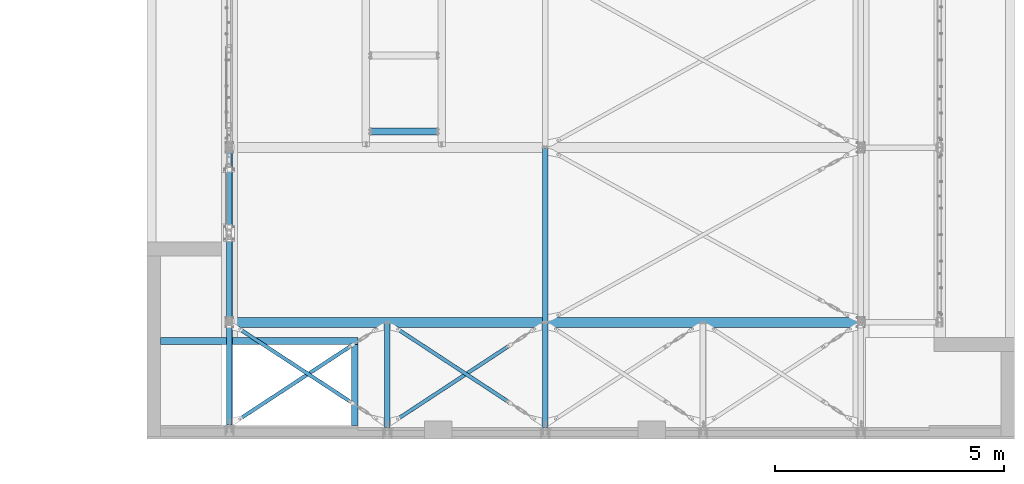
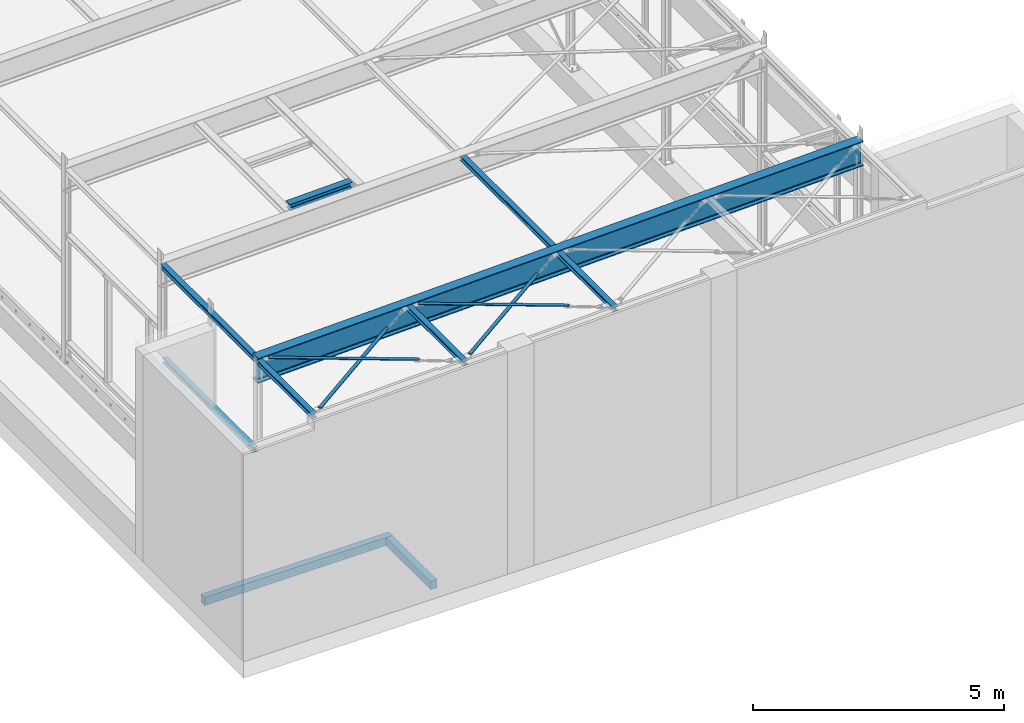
# One storey, part 12 of 476: 8 beams, 6 members, 50 openings.
"""IFC2X3 building model written with IfcOpenShell, lengths in millimetres."""

from ifc_helpers import new_model, entity, si_unit, converted_unit, frame, frame_2d, origin, origin_with_axes, origin_2d, origin_2d_with_axis, place, context, project, spatial, polyline, rectangle, circle, i_section, outline, extrude, clip, halfspace, material, element, save


model = new_model("IFC2X3")

# Units and contexts
model_context = context("Model", 3, precision=1e-09, world=origin_with_axes())
ifc_project = project(units=[si_unit("LENGTHUNIT", "METRE", prefix="MILLI"), si_unit("AREAUNIT", "SQUARE_METRE"), si_unit("VOLUMEUNIT", "CUBIC_METRE"), converted_unit("PLANEANGLEUNIT", "DEGREE", entity("IfcPlaneAngleMeasure", 0.01745329), si_unit("PLANEANGLEUNIT", "RADIAN"), dimensions=[0, 0, 0, 0, 0, 0, 0])], contexts=[model_context])

# Site, building, storey
site_placement = place(None, origin_with_axes())
site = spatial("IfcSite", under=ifc_project, at=site_placement, Name="mKR Teilneubau & Sanierung BA1 - Ostfildern", CompositionType="ELEMENT")
building_placement = place(site_placement, origin_with_axes())
building = spatial("IfcBuilding", under=site, at=building_placement, Name="Struktur 1", CompositionType="ELEMENT")
storey_placement = place(building_placement, origin_with_axes())
storey = spatial("IfcBuildingStorey", under=building, at=storey_placement, Name="Default Storey", CompositionType="ELEMENT", Elevation=0.0)

# Member, openings
ifc_material_1 = material(Name="S235JR")
member_1_placement = place(None, frame((11790.469902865, -21341.696980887, 5330.766490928), z_axis=(-0.835791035, 0.548472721, -0.025120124), x_axis=(0.030041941, 0.0, -0.999548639)))
member_1 = element("IfcMember", 1, at=member_1_placement, inside=storey, material=ifc_material_1, Name="-", ObjectType="-", context=model_context, shape_type="SweptSolid", body=[
    extrude(rectangle(XDim=15.0, YDim=80.0, at=origin_2d()), origin(), (0.0, 0.0, -1.0), 3007.407259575),
])
opening_1_placement = place(member_1_placement, frame((8.000309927, 9.8616e-05, -59.999849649), z_axis=(-1.0, -1.2327e-05, -1.8792e-05), x_axis=(0.0, -0.836168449, 0.548472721)))
element("IfcOpeningElement", 2, at=opening_1_placement, cuts=member_1, ObjectType="Opening", context=model_context, shape_type="SweptSolid", body=[
    extrude(circle(Radius=14.501, at=origin_2d_with_axis()), origin(), (0.0, 0.0, 1.0), 16.000619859),
])
opening_2_placement = place(member_1_placement, frame((8.0, 0.001480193, -2947.407259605), z_axis=(-1.0, 0.0, 0.0), x_axis=(0.0, 0.0, 1.0)))
element("IfcOpeningElement", 3, at=opening_2_placement, cuts=member_1, ObjectType="Opening", context=model_context, shape_type="SweptSolid", body=[
    extrude(circle(Radius=14.501, at=origin_2d_with_axis()), origin(), (0.0, 0.0, 1.0), 16.0),
])

member_2_placement = place(None, frame((11790.469902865, -23372.366687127, 5330.766490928), z_axis=(0.835791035, 0.548472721, 0.025120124), x_axis=(0.030041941, 0.0, -0.999548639)))
member_2 = element("IfcMember", 4, at=member_2_placement, inside=storey, material=ifc_material_1, Name="-", ObjectType="-", context=model_context, shape_type="SweptSolid", body=[
    extrude(rectangle(XDim=15.0, YDim=80.0, at=origin_2d()), origin(), (0.0, 0.0, 1.0), 3007.407059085),
])
opening_3_placement = place(member_2_placement, frame((8.000309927, 12.125377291, 67.953252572), z_axis=(1.0, 1.2327e-05, -1.8792e-05), x_axis=(-1.2327e-05, 1.0, 0.0)))
element("IfcOpeningElement", 5, at=opening_3_placement, cuts=member_2, ObjectType="Opening", context=model_context, shape_type="SweptSolid", body=[
    extrude(circle(Radius=14.501, at=frame_2d((-12.125278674, -7.953402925), x_axis=(1.0, 0.0))), origin(), (0.0, 0.0, -1.0), 16.000619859),
])
opening_4_placement = place(member_2_placement, frame((8.0, 0.001174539, 2947.407059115), z_axis=(-1.0, 0.0, 0.0), x_axis=(0.0, 0.917231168, -0.398355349)))
element("IfcOpeningElement", 6, at=opening_4_placement, cuts=member_2, ObjectType="Opening", context=model_context, shape_type="SweptSolid", body=[
    extrude(circle(Radius=14.501, at=origin_2d_with_axis()), origin(), (0.0, 0.0, 1.0), 16.0),
])

member_3_placement = place(None, frame((8340.469036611, -23371.294304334, 5227.074964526), z_axis=(0.835791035, 0.548472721, 0.025120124), x_axis=(0.030041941, 0.0, -0.999548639)))
member_3 = element("IfcMember", 7, at=member_3_placement, inside=storey, material=ifc_material_1, Name="-", ObjectType="-", context=model_context, shape_type="SweptSolid", body=[
    extrude(rectangle(XDim=15.0, YDim=80.0, at=origin_2d()), origin(), (0.0, 0.0, 1.0), 3007.407059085),
])
opening_5_placement = place(member_3_placement, frame((8.0, 0.001174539, 2947.407059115), z_axis=(-1.0, 0.0, 0.0), x_axis=(0.0, 0.917231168, -0.398355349)))
element("IfcOpeningElement", 8, at=opening_5_placement, cuts=member_3, ObjectType="Opening", context=model_context, shape_type="SweptSolid", body=[
    extrude(circle(Radius=14.501, at=origin_2d_with_axis()), origin(), (0.0, 0.0, 1.0), 16.0),
])
opening_6_placement = place(member_3_placement, frame((8.000309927, 12.125377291, 67.953252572), z_axis=(1.0, 1.2327e-05, -1.8792e-05), x_axis=(-1.2327e-05, 1.0, 0.0)))
element("IfcOpeningElement", 9, at=opening_6_placement, cuts=member_3, ObjectType="Opening", context=model_context, shape_type="SweptSolid", body=[
    extrude(circle(Radius=14.501, at=frame_2d((-12.125278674, -7.953402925), x_axis=(1.0, 0.0))), origin(), (0.0, 0.0, -1.0), 16.000619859),
])

member_4_placement = place(None, frame((8340.469036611, -21341.696980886, 5227.074964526), z_axis=(-0.835791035, 0.548472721, -0.025120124), x_axis=(0.030041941, 0.0, -0.999548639)))
member_4 = element("IfcMember", 10, at=member_4_placement, inside=storey, material=ifc_material_1, Name="-", ObjectType="-", context=model_context, shape_type="SweptSolid", body=[
    extrude(rectangle(XDim=15.0, YDim=80.0, at=origin_2d()), origin(), (0.0, 0.0, -1.0), 3007.407259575),
])
opening_7_placement = place(member_4_placement, frame((8.0, 0.001480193, -2947.407259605), z_axis=(-1.0, 0.0, 0.0), x_axis=(0.0, 0.0, 1.0)))
element("IfcOpeningElement", 11, at=opening_7_placement, cuts=member_4, ObjectType="Opening", context=model_context, shape_type="SweptSolid", body=[
    extrude(circle(Radius=14.501, at=origin_2d_with_axis()), origin(), (0.0, 0.0, 1.0), 16.0),
])
opening_8_placement = place(member_4_placement, frame((8.000309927, 9.8616e-05, -59.999849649), z_axis=(-1.0, -1.2327e-05, -1.8792e-05), x_axis=(0.0, -0.836168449, 0.548472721)))
element("IfcOpeningElement", 12, at=opening_8_placement, cuts=member_4, ObjectType="Opening", context=model_context, shape_type="SweptSolid", body=[
    extrude(circle(Radius=14.501, at=origin_2d_with_axis()), origin(), (0.0, 0.0, 1.0), 16.000619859),
])

# Beam, openings
beam_1_placement = place(None, frame((11615.608780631, -21142.915193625, 5260.909713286), z_axis=(0.0, 1.0, 0.0), x_axis=(-0.999549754, 0.0, -0.030004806)))
beam_1 = element("IfcBeam", 13, at=beam_1_placement, inside=storey, material=ifc_material_1, Name="-", ObjectType="-", context=model_context, shape_type="Clipping", body=[
    clip(extrude(i_section(OverallWidth=120.0, OverallDepth=114.0, WebThickness=5.0, FlangeThickness=8.0, FilletRadius=12.0, at=origin_2d()), origin(), (0.0, 0.0, -1.0), 2376.758685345), halfspace(frame((11768.231479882, -4910.016923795, -100.759685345), z_axis=(0.0, 0.0, -1.0), x_axis=(-0.999549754, -0.030004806, 0.0)), True)),
])
opening_9_placement = place(beam_1_placement, frame((-3.000318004, -0.004113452, -2311.758695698), z_axis=(0.999999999, -3.7152e-05, 0.0), x_axis=(0.0, 0.0, -1.0)))
element("IfcOpeningElement", 14, at=opening_9_placement, cuts=beam_1, ObjectType="Opening", context=model_context, shape_type="SweptSolid", body=[
    extrude(circle(Radius=9.001, at=frame_2d((35.0, 0.0), x_axis=(1.0, 0.0))), origin(), (0.0, 0.0, 1.0), 6.000636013),
])
opening_10_placement = place(beam_1_placement, frame((-3.000318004, -0.004113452, -2311.758695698), z_axis=(0.999999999, -3.7152e-05, 0.0), x_axis=(0.0, 0.0, -1.0)))
element("IfcOpeningElement", 15, at=opening_10_placement, cuts=beam_1, ObjectType="Opening", context=model_context, shape_type="SweptSolid", body=[
    extrude(circle(Radius=9.001, at=frame_2d((-35.0, 0.0), x_axis=(1.0, 0.0))), origin(), (0.0, 0.0, 1.0), 6.000636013),
])

# Member
member_5_placement = place(None, frame((12919.483965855, -17055.673034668, 5341.051321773), z_axis=(-0.999549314, 0.0, -0.030019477), x_axis=(0.0, -1.0, 0.0)))
element("IfcMember", 16, at=member_5_placement, inside=storey, material=ifc_material_1, Name="-", ObjectType="-", context=model_context, shape_type="Clipping", body=[
    clip(clip(extrude(i_section(OverallWidth=160.0, OverallDepth=152.0, WebThickness=6.0, FlangeThickness=9.0, FilletRadius=15.0, at=origin_2d()), origin(), (0.0, 0.0, 1.0), 1880.689827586), halfspace(frame((-17055.673034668, -4950.808028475, 1660.343913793), z_axis=(0.0, 0.0, -1.0), x_axis=(-1.0, 0.0, 0.0)), True)), halfspace(frame((-17055.673034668, -4950.808028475, 220.345913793), z_axis=(0.0, 0.0, 1.0), x_axis=(1.0, 0.0, 0.0)), True)),
])

# Beam, openings
beam_2_placement = place(None, frame((8165.608780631, -17322.915193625, 2912.000017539), z_axis=(0.0, 1.0, 0.0), x_axis=(-1.0, 0.0, 0.0)))
beam_2 = element("IfcBeam", 17, at=beam_2_placement, inside=storey, material=ifc_material_1, Name="-", ObjectType="-", context=model_context, shape_type="Clipping", body=[
    clip(clip(extrude(i_section(OverallWidth=120.0, OverallDepth=114.0, WebThickness=5.0, FlangeThickness=8.0, FilletRadius=12.0, at=origin_2d()), origin(), (0.0, 0.0, -1.0), 3985.51737069), halfspace(frame((8165.608780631, -2912.000017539, -182.759685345), z_axis=(0.0, 0.0, -1.0), x_axis=(-1.0, 0.0, 0.0)), True)), halfspace(frame((8165.608780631, -2912.000017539, -3802.757685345), z_axis=(0.0, 0.0, 1.0), x_axis=(1.0, 0.0, 0.0)), True)),
])
opening_11_placement = place(beam_2_placement, frame((6.49997598, -57.5, -472.756841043), z_axis=(0.0, 1.0, 0.0), x_axis=(0.0, 0.0, -1.0)))
element("IfcOpeningElement", 18, at=opening_11_placement, cuts=beam_2, ObjectType="Opening", context=model_context, shape_type="SweptSolid", body=[
    extrude(circle(Radius=6.001, at=frame_2d((0.0, 35.0), x_axis=(1.0, 0.0))), origin(), (0.0, 0.0, 1.0), 9.0),
])
opening_12_placement = place(beam_2_placement, frame((6.49997598, -57.5, -472.756841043), z_axis=(0.0, 1.0, 0.0), x_axis=(0.0, 0.0, -1.0)))
element("IfcOpeningElement", 19, at=opening_12_placement, cuts=beam_2, ObjectType="Opening", context=model_context, shape_type="SweptSolid", body=[
    extrude(circle(Radius=6.001, at=frame_2d((0.0, -35.0), x_axis=(1.0, 0.0))), origin(), (0.0, 0.0, 1.0), 9.0),
])
opening_13_placement = place(beam_2_placement, frame((-28.50002402, -57.5, -1918.759841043), z_axis=(0.0, -1.0, 0.0), x_axis=(1.0, 0.0, 0.0)))
element("IfcOpeningElement", 20, at=opening_13_placement, cuts=beam_2, ObjectType="Opening", context=model_context, shape_type="SweptSolid", body=[
    extrude(circle(Radius=6.001, at=frame_2d((0.0, 6.001), x_axis=(1.0, 0.0))), origin(), (0.0, 0.0, -1.0), 9.0),
])
opening_14_placement = place(beam_2_placement, frame((41.49997598, -57.5, -1918.759841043), z_axis=(0.0, -1.0, 0.0), x_axis=(1.0, 0.0, 0.0)))
element("IfcOpeningElement", 21, at=opening_14_placement, cuts=beam_2, ObjectType="Opening", context=model_context, shape_type="SweptSolid", body=[
    extrude(circle(Radius=6.001, at=frame_2d((0.0, 6.001), x_axis=(1.0, 0.0))), origin(), (0.0, 0.0, -1.0), 9.0),
])
opening_15_placement = place(beam_2_placement, frame((6.49997598, -57.5, -1992.758841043), z_axis=(0.0, 1.0, 0.0), x_axis=(0.0, 0.0, -1.0)))
element("IfcOpeningElement", 22, at=opening_15_placement, cuts=beam_2, ObjectType="Opening", context=model_context, shape_type="SweptSolid", body=[
    extrude(circle(Radius=6.001, at=frame_2d((0.0, 35.0), x_axis=(1.0, 0.0))), origin(), (0.0, 0.0, 1.0), 9.0),
])
opening_16_placement = place(beam_2_placement, frame((6.49997598, -57.5, -1992.758841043), z_axis=(0.0, 1.0, 0.0), x_axis=(0.0, 0.0, -1.0)))
element("IfcOpeningElement", 23, at=opening_16_placement, cuts=beam_2, ObjectType="Opening", context=model_context, shape_type="SweptSolid", body=[
    extrude(circle(Radius=6.001, at=frame_2d((0.0, -35.0), x_axis=(1.0, 0.0))), origin(), (0.0, 0.0, 1.0), 9.0),
])
opening_17_placement = place(beam_2_placement, frame((6.49997598, 48.5, -1992.758841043), z_axis=(0.0, 1.0, 0.0), x_axis=(0.0, 0.0, -1.0)))
element("IfcOpeningElement", 24, at=opening_17_placement, cuts=beam_2, ObjectType="Opening", context=model_context, shape_type="SweptSolid", body=[
    extrude(circle(Radius=6.001, at=frame_2d((0.0, 35.0), x_axis=(1.0, 0.0))), origin(), (0.0, 0.0, 1.0), 9.0),
])
opening_18_placement = place(beam_2_placement, frame((6.49997598, 48.5, -1992.758841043), z_axis=(0.0, 1.0, 0.0), x_axis=(0.0, 0.0, -1.0)))
element("IfcOpeningElement", 25, at=opening_18_placement, cuts=beam_2, ObjectType="Opening", context=model_context, shape_type="SweptSolid", body=[
    extrude(circle(Radius=6.001, at=frame_2d((0.0, -35.0), x_axis=(1.0, 0.0))), origin(), (0.0, 0.0, 1.0), 9.0),
])

beam_3_placement = place(None, frame((8165.608780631, -17322.915193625, 5157.22121182), z_axis=(0.0, 1.0, 0.0), x_axis=(-0.999548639, 0.0, -0.030041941)))
beam_3 = element("IfcBeam", 26, at=beam_3_placement, inside=storey, material=ifc_material_1, Name="-", ObjectType="-", context=model_context, shape_type="Clipping", body=[
    clip(clip(extrude(i_section(OverallWidth=120.0, OverallDepth=114.0, WebThickness=5.0, FlangeThickness=8.0, FilletRadius=12.0, at=origin_2d()), origin(), (0.0, 0.0, -1.0), 3985.51737069), halfspace(frame((8316.856080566, -4909.582703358, -3884.757685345), z_axis=(0.0, 0.0, 1.0), x_axis=(0.999548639, 0.030041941, 0.0)), True)), halfspace(frame((8316.856080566, -4909.582703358, -100.759685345), z_axis=(0.0, 0.0, -1.0), x_axis=(-0.999548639, -0.030041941, 0.0)), True)),
])
opening_19_placement = place(beam_3_placement, frame((0.0, -1.332627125, -3902.758685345), z_axis=(0.0, 1.0, 0.0), x_axis=(0.0, 0.0, -1.0)))
element("IfcOpeningElement", 27, at=opening_19_placement, cuts=beam_3, ObjectType="Opening", context=model_context, shape_type="SweptSolid", body=[
    extrude(outline(polyline([(-80.0, -45.0), (-80.0, -75.0), (-18.0, -75.0), (-18.0, -45.0), (-80.0, -45.0)])), origin(), (0.0, 0.0, 1.0), 59.665254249),
])
opening_20_placement = place(beam_3_placement, frame((0.0, -58.353598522, -3902.758685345), z_axis=(0.0, 1.0, 0.0), x_axis=(0.0, 0.0, -1.0)))
element("IfcOpeningElement", 28, at=opening_20_placement, cuts=beam_3, ObjectType="Opening", context=model_context, shape_type="SweptSolid", body=[
    extrude(outline(polyline([(-80.0, -45.0), (-80.0, -75.0), (-18.0, -75.0), (-18.0, -45.0), (-80.0, -45.0)])), origin(), (0.0, 0.0, 1.0), 59.707197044),
])
opening_21_placement = place(beam_3_placement, frame((0.0, 58.353598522, -82.758685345), z_axis=(0.0, -1.0, 0.0), x_axis=(0.0, 0.0, 1.0)))
element("IfcOpeningElement", 29, at=opening_21_placement, cuts=beam_3, ObjectType="Opening", context=model_context, shape_type="SweptSolid", body=[
    extrude(outline(polyline([(-80.0, -45.0), (-80.0, -75.0), (-18.0, -75.0), (-18.0, -45.0), (-80.0, -45.0)])), origin(), (0.0, 0.0, 1.0), 59.707197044),
])
opening_22_placement = place(beam_3_placement, frame((0.0, 1.332627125, -82.758685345), z_axis=(0.0, -1.0, 0.0), x_axis=(0.0, 0.0, 1.0)))
element("IfcOpeningElement", 30, at=opening_22_placement, cuts=beam_3, ObjectType="Opening", context=model_context, shape_type="SweptSolid", body=[
    extrude(outline(polyline([(-80.0, -45.0), (-80.0, -75.0), (-18.0, -75.0), (-18.0, -45.0), (-80.0, -45.0)])), origin(), (0.0, 0.0, 1.0), 59.665254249),
])

beam_4_placement = place(None, frame((8165.608780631, -21142.915193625, 5157.22121182), z_axis=(0.0, 1.0, 0.0), x_axis=(-0.999548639, 0.0, -0.030041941)))
beam_4 = element("IfcBeam", 31, at=beam_4_placement, inside=storey, material=ifc_material_1, Name="-", ObjectType="-", context=model_context, shape_type="Clipping", body=[
    clip(extrude(i_section(OverallWidth=120.0, OverallDepth=114.0, WebThickness=5.0, FlangeThickness=8.0, FilletRadius=12.0, at=origin_2d()), origin(), (0.0, 0.0, -1.0), 2326.401212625), halfspace(frame((8316.856080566, -4909.582703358, -100.759685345), z_axis=(0.0, 0.0, -1.0), x_axis=(-0.999548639, -0.030041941, 0.0)), True)),
])
opening_23_placement = place(beam_4_placement, frame((-3.000000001, -0.001995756, -2261.401222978), z_axis=(1.0, 0.0, 0.0), x_axis=(0.0, 0.0, -1.0)))
element("IfcOpeningElement", 32, at=opening_23_placement, cuts=beam_4, ObjectType="Opening", context=model_context, shape_type="SweptSolid", body=[
    extrude(circle(Radius=9.001, at=frame_2d((35.0, 0.0), x_axis=(1.0, 0.0))), origin(), (0.0, 0.0, 1.0), 6.000000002),
])
opening_24_placement = place(beam_4_placement, frame((-3.000000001, -0.001995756, -2261.401222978), z_axis=(1.0, 0.0, 0.0), x_axis=(0.0, 0.0, -1.0)))
element("IfcOpeningElement", 33, at=opening_24_placement, cuts=beam_4, ObjectType="Opening", context=model_context, shape_type="SweptSolid", body=[
    extrude(circle(Radius=9.001, at=frame_2d((-35.0, 0.0), x_axis=(1.0, 0.0))), origin(), (0.0, 0.0, 1.0), 6.000000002),
])
opening_25_placement = place(beam_4_placement, frame((0.0, 58.353598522, -82.758685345), z_axis=(0.0, -1.0, 0.0), x_axis=(0.0, 0.0, 1.0)))
element("IfcOpeningElement", 34, at=opening_25_placement, cuts=beam_4, ObjectType="Opening", context=model_context, shape_type="SweptSolid", body=[
    extrude(outline(polyline([(-80.0, -45.0), (-80.0, -75.0), (-18.0, -75.0), (-18.0, -45.0), (-80.0, -45.0)])), origin(), (0.0, 0.0, 1.0), 59.707197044),
])
opening_26_placement = place(beam_4_placement, frame((0.0, 1.332627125, -82.758685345), z_axis=(0.0, -1.0, 0.0), x_axis=(0.0, 0.0, 1.0)))
element("IfcOpeningElement", 35, at=opening_26_placement, cuts=beam_4, ObjectType="Opening", context=model_context, shape_type="SweptSolid", body=[
    extrude(outline(polyline([(-80.0, -45.0), (-80.0, -75.0), (-18.0, -75.0), (-18.0, -45.0), (-80.0, -45.0)])), origin(), (0.0, 0.0, 1.0), 59.665254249),
])

# Beam
beam_5_placement = place(None, frame((15065.608780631, -17322.915193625, 5364.602213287), z_axis=(0.0, 1.0, 0.0), x_axis=(-0.999549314, 0.0, -0.030019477)))
element("IfcBeam", 36, at=beam_5_placement, inside=storey, material=ifc_material_1, Name="-", ObjectType="-", context=model_context, shape_type="Clipping", body=[
    clip(clip(extrude(i_section(OverallWidth=120.0, OverallDepth=114.0, WebThickness=5.0, FlangeThickness=8.0, FilletRadius=12.0, at=origin_2d()), origin(), (0.0, 0.0, -1.0), 3985.51737069), halfspace(frame((15219.861475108, -4909.922760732, -3884.757685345), z_axis=(0.0, 0.0, 1.0), x_axis=(0.999549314, 0.030019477, 0.0)), True)), halfspace(frame((15219.861475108, -4909.922760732, -100.759685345), z_axis=(0.0, 0.0, -1.0), x_axis=(-0.999549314, -0.030019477, 0.0)), True)),
])

# Beam, openings
beam_6_placement = place(None, frame((15065.608780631, -21142.915193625, 5364.602213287), z_axis=(0.0, 1.0, 0.0), x_axis=(-0.999549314, 0.0, -0.030019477)))
beam_6 = element("IfcBeam", 37, at=beam_6_placement, inside=storey, material=ifc_material_1, Name="-", ObjectType="-", context=model_context, shape_type="Clipping", body=[
    clip(extrude(i_section(OverallWidth=120.0, OverallDepth=114.0, WebThickness=5.0, FlangeThickness=8.0, FilletRadius=12.0, at=origin_2d()), origin(), (0.0, 0.0, -1.0), 2376.758685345), halfspace(frame((15219.861475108, -4909.922760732, -100.759685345), z_axis=(0.0, 0.0, -1.0), x_axis=(-0.999549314, -0.030019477, 0.0)), True)),
])
opening_27_placement = place(beam_6_placement, frame((-3.000192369, -0.003276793, -2311.758695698), z_axis=(1.0, -2.2474e-05, 0.0), x_axis=(0.0, 0.0, -1.0)))
element("IfcOpeningElement", 38, at=opening_27_placement, cuts=beam_6, ObjectType="Opening", context=model_context, shape_type="SweptSolid", body=[
    extrude(circle(Radius=9.001, at=frame_2d((35.0, 0.0), x_axis=(1.0, 0.0))), origin(), (0.0, 0.0, 1.0), 6.000384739),
])
opening_28_placement = place(beam_6_placement, frame((-3.000192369, -0.003276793, -2311.758695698), z_axis=(1.0, -2.2474e-05, 0.0), x_axis=(0.0, 0.0, -1.0)))
element("IfcOpeningElement", 39, at=opening_28_placement, cuts=beam_6, ObjectType="Opening", context=model_context, shape_type="SweptSolid", body=[
    extrude(circle(Radius=9.001, at=frame_2d((-35.0, 0.0), x_axis=(1.0, 0.0))), origin(), (0.0, 0.0, 1.0), 6.000384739),
])

# Beams
ifc_material_2 = material(Name="C25/30")
beam_7_placement = place(None, frame((6660.608764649, -21635.673034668, 100.0), z_axis=(-1.0, 0.0, 0.0), x_axis=(0.0, -1.0, 0.0)))
element("IfcBeam", 40, at=beam_7_placement, inside=storey, material=ifc_material_2, Name="-", ObjectType="-", context=model_context, shape_type="SweptSolid", body=[
    extrude(outline(polyline([(75.0, -100.0), (75.0, 100.0), (-75.0, 100.0), (-75.0, -100.0), (75.0, -100.0)])), origin(), (0.0, 0.0, -1.0), 4320.0),
])
beam_8_placement = place(None, frame((10905.608764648, -21710.673034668, 100.0), z_axis=(0.0, 1.0, 0.0), x_axis=(-1.0, 0.0, 0.0)))
element("IfcBeam", 41, at=beam_8_placement, inside=storey, material=ifc_material_2, Name="-", ObjectType="-", context=model_context, shape_type="SweptSolid", body=[
    extrude(outline(polyline([(75.0, -100.0), (75.0, 100.0), (-75.0, 100.0), (-75.0, -100.0), (75.0, -100.0)])), origin(), (0.0, 0.0, -1.0), 1769.643371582),
])

# Member, openings
member_6_placement = place(None, frame((7671.078857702, -21225.67387897, 4959.248116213), z_axis=(-0.999548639, 0.0, -0.030041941), x_axis=(0.0, -1.0, 0.0)))
member_6 = element("IfcMember", 42, at=member_6_placement, inside=storey, material=ifc_material_1, Name="-", ObjectType="-", context=model_context, shape_type="Clipping", body=[
    clip(clip(extrude(i_section(OverallWidth=220.0, OverallDepth=600.0, WebThickness=12.0, FlangeThickness=19.0, FilletRadius=24.0, at=origin_2d()), origin(), (0.0, 0.0, -1.0), 14725.706361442), halfspace(frame((-21225.67387897, -4970.169003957, -288.847755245), z_axis=(0.0, -0.030041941, -0.999548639), x_axis=(-1.0, 0.0, 0.0)), True)), halfspace(frame((-21225.67387897, -5388.142475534, -14195.565970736), z_axis=(0.0, 0.030041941, 0.999548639), x_axis=(1.0, 0.0, 0.0)), True)),
])
opening_29_placement = place(member_6_placement, frame((-6.5, 247.888062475, -457.683526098), z_axis=(1.0, 0.0, 0.0), x_axis=(0.0, -0.030041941, -0.999548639)))
element("IfcOpeningElement", 43, at=opening_29_placement, cuts=member_6, ObjectType="Opening", context=model_context, shape_type="SweptSolid", body=[
    extrude(circle(Radius=7.001, at=origin_2d_with_axis()), origin(), (0.0, 0.0, 1.0), 13.0),
])
opening_30_placement = place(member_6_placement, frame((-6.5, -247.888062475, -442.782723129), z_axis=(1.0, 0.0, 0.0), x_axis=(0.0, -0.030041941, -0.999548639)))
element("IfcOpeningElement", 44, at=opening_30_placement, cuts=member_6, ObjectType="Opening", context=model_context, shape_type="SweptSolid", body=[
    extrude(circle(Radius=7.001, at=origin_2d_with_axis()), origin(), (0.0, 0.0, 1.0), 13.0),
])
opening_31_placement = place(member_6_placement, frame((-6.5, 183.025662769, -7373.369944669), z_axis=(1.0, 0.0, 0.0), x_axis=(0.0, 1.0, -2.2474e-05)))
element("IfcOpeningElement", 45, at=opening_31_placement, cuts=member_6, ObjectType="Opening", context=model_context, shape_type="SweptSolid", body=[
    extrude(circle(Radius=7.001, at=origin_2d_with_axis()), origin(), (0.0, 0.0, 1.0), 13.0),
])
opening_32_placement = place(member_6_placement, frame((-6.5, 183.024539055, -7433.369944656), z_axis=(1.0, 0.0, 0.0), x_axis=(0.0, 1.0, -2.2474e-05)))
element("IfcOpeningElement", 46, at=opening_32_placement, cuts=member_6, ObjectType="Opening", context=model_context, shape_type="SweptSolid", body=[
    extrude(circle(Radius=7.001, at=origin_2d_with_axis()), origin(), (0.0, 0.0, 1.0), 13.0),
])
opening_33_placement = place(member_6_placement, frame((-6.5, 183.027099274, -14331.485801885), z_axis=(1.0, 0.0, 0.0), x_axis=(0.0, 1.0, 0.0)))
element("IfcOpeningElement", 47, at=opening_33_placement, cuts=member_6, ObjectType="Opening", context=model_context, shape_type="SweptSolid", body=[
    extrude(circle(Radius=7.001, at=origin_2d_with_axis()), origin(), (0.0, 0.0, 1.0), 13.0),
])
opening_34_placement = place(member_6_placement, frame((-6.5, 183.027099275, -14281.485801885), z_axis=(1.0, 0.0, 0.0), x_axis=(0.0, 1.0, 0.0)))
element("IfcOpeningElement", 48, at=opening_34_placement, cuts=member_6, ObjectType="Opening", context=model_context, shape_type="SweptSolid", body=[
    extrude(circle(Radius=7.001, at=origin_2d_with_axis()), origin(), (0.0, 0.0, 1.0), 13.0),
])
opening_35_placement = place(member_6_placement, frame((6.5, 183.027099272, -525.254207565), z_axis=(-1.0, 0.0, 0.0), x_axis=(0.0, 1.0, 0.0)))
element("IfcOpeningElement", 49, at=opening_35_placement, cuts=member_6, ObjectType="Opening", context=model_context, shape_type="SweptSolid", body=[
    extrude(circle(Radius=7.001, at=origin_2d_with_axis()), origin(), (0.0, 0.0, 1.0), 13.0),
])
opening_36_placement = place(member_6_placement, frame((6.5, 183.027099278, -475.254207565), z_axis=(-1.0, 0.0, 0.0), x_axis=(0.0, 1.0, 0.0)))
element("IfcOpeningElement", 50, at=opening_36_placement, cuts=member_6, ObjectType="Opening", context=model_context, shape_type="SweptSolid", body=[
    extrude(circle(Radius=7.001, at=origin_2d_with_axis()), origin(), (0.0, 0.0, 1.0), 13.0),
])
opening_37_placement = place(member_6_placement, frame((52.001, -300.5, -14263.867080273), z_axis=(0.0, -1.0, 0.0), x_axis=(1.0, 0.0, 0.0)))
element("IfcOpeningElement", 51, at=opening_37_placement, cuts=member_6, ObjectType="Opening", context=model_context, shape_type="SweptSolid", body=[
    extrude(circle(Radius=7.001, at=frame_2d((-7.001, 0.0), x_axis=(1.0, 0.0))), origin(), (0.0, 0.0, -1.0), 20.0),
])
opening_38_placement = place(member_6_placement, frame((52.001, -300.5, -14318.867080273), z_axis=(0.0, -1.0, 0.0), x_axis=(1.0, 0.0, 0.0)))
element("IfcOpeningElement", 52, at=opening_38_placement, cuts=member_6, ObjectType="Opening", context=model_context, shape_type="SweptSolid", body=[
    extrude(circle(Radius=7.001, at=frame_2d((-7.001, 0.0), x_axis=(1.0, 0.0))), origin(), (0.0, 0.0, -1.0), 20.0),
])
opening_39_placement = place(member_6_placement, frame((-37.999, -300.5, -14318.867080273), z_axis=(0.0, -1.0, 0.0), x_axis=(1.0, 0.0, 0.0)))
element("IfcOpeningElement", 53, at=opening_39_placement, cuts=member_6, ObjectType="Opening", context=model_context, shape_type="SweptSolid", body=[
    extrude(circle(Radius=7.001, at=frame_2d((-7.001, 0.0), x_axis=(1.0, 0.0))), origin(), (0.0, 0.0, -1.0), 20.0),
])
opening_40_placement = place(member_6_placement, frame((-37.999, -300.5, -14263.867080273), z_axis=(0.0, -1.0, 0.0), x_axis=(1.0, 0.0, 0.0)))
element("IfcOpeningElement", 54, at=opening_40_placement, cuts=member_6, ObjectType="Opening", context=model_context, shape_type="SweptSolid", body=[
    extrude(circle(Radius=7.001, at=frame_2d((-7.001, 0.0), x_axis=(1.0, 0.0))), origin(), (0.0, 0.0, -1.0), 20.0),
])
opening_41_placement = place(member_6_placement, frame((6.5, 247.888062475, -14352.955309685), z_axis=(-1.0, 0.0, 0.0), x_axis=(0.0, 0.030041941, 0.999548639)))
element("IfcOpeningElement", 55, at=opening_41_placement, cuts=member_6, ObjectType="Opening", context=model_context, shape_type="SweptSolid", body=[
    extrude(circle(Radius=7.001, at=origin_2d_with_axis()), origin(), (0.0, 0.0, 1.0), 13.0),
])
opening_42_placement = place(member_6_placement, frame((6.5, -247.888062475, -14338.054506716), z_axis=(-1.0, 0.0, 0.0), x_axis=(0.0, 0.030041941, 0.999548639)))
element("IfcOpeningElement", 56, at=opening_42_placement, cuts=member_6, ObjectType="Opening", context=model_context, shape_type="SweptSolid", body=[
    extrude(circle(Radius=7.001, at=origin_2d_with_axis()), origin(), (0.0, 0.0, 1.0), 13.0),
])
opening_43_placement = place(member_6_placement, frame((-6.5, 183.022987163, -3981.812016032), z_axis=(1.0, 0.0, 0.0), x_axis=(0.0, 0.999999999, -3.7152e-05)))
element("IfcOpeningElement", 57, at=opening_43_placement, cuts=member_6, ObjectType="Opening", context=model_context, shape_type="SweptSolid", body=[
    extrude(circle(Radius=7.001, at=origin_2d_with_axis()), origin(), (0.0, 0.0, 1.0), 13.0),
])
opening_44_placement = place(member_6_placement, frame((-6.5, 183.026099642, -10824.927903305), z_axis=(1.0, 0.0, 0.0), x_axis=(0.0, 1.0, 0.0)))
element("IfcOpeningElement", 58, at=opening_44_placement, cuts=member_6, ObjectType="Opening", context=model_context, shape_type="SweptSolid", body=[
    extrude(circle(Radius=7.001, at=origin_2d_with_axis()), origin(), (0.0, 0.0, 1.0), 13.0),
])
opening_45_placement = place(member_6_placement, frame((37.999, -300.5, -512.635427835), z_axis=(0.0, -1.0, 0.0), x_axis=(1.0, 0.0, 0.0)))
element("IfcOpeningElement", 59, at=opening_45_placement, cuts=member_6, ObjectType="Opening", context=model_context, shape_type="SweptSolid", body=[
    extrude(circle(Radius=7.001, at=frame_2d((7.001, 0.0), x_axis=(1.0, 0.0))), origin(), (0.0, 0.0, -1.0), 20.0),
])
opening_46_placement = place(member_6_placement, frame((-52.001, -300.5, -512.635427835), z_axis=(0.0, -1.0, 0.0), x_axis=(1.0, 0.0, 0.0)))
element("IfcOpeningElement", 60, at=opening_46_placement, cuts=member_6, ObjectType="Opening", context=model_context, shape_type="SweptSolid", body=[
    extrude(circle(Radius=7.001, at=frame_2d((7.001, 0.0), x_axis=(1.0, 0.0))), origin(), (0.0, 0.0, -1.0), 20.0),
])
opening_47_placement = place(member_6_placement, frame((-52.001, -300.5, -457.635427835), z_axis=(0.0, -1.0, 0.0), x_axis=(1.0, 0.0, 0.0)))
element("IfcOpeningElement", 61, at=opening_47_placement, cuts=member_6, ObjectType="Opening", context=model_context, shape_type="SweptSolid", body=[
    extrude(circle(Radius=7.001, at=frame_2d((7.001, 0.0), x_axis=(1.0, 0.0))), origin(), (0.0, 0.0, -1.0), 20.0),
])
opening_48_placement = place(member_6_placement, frame((-6.5, 183.026099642, -10884.927903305), z_axis=(1.0, 0.0, 0.0), x_axis=(0.0, 1.0, 0.0)))
element("IfcOpeningElement", 62, at=opening_48_placement, cuts=member_6, ObjectType="Opening", context=model_context, shape_type="SweptSolid", body=[
    extrude(circle(Radius=7.001, at=origin_2d_with_axis()), origin(), (0.0, 0.0, 1.0), 13.0),
])
opening_49_placement = place(member_6_placement, frame((-6.5, 183.025216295, -3921.812016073), z_axis=(1.0, 0.0, 0.0), x_axis=(0.0, 0.999999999, -3.7152e-05)))
element("IfcOpeningElement", 63, at=opening_49_placement, cuts=member_6, ObjectType="Opening", context=model_context, shape_type="SweptSolid", body=[
    extrude(circle(Radius=7.001, at=origin_2d_with_axis()), origin(), (0.0, 0.0, 1.0), 13.0),
])
opening_50_placement = place(member_6_placement, frame((37.999, -300.5, -457.635427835), z_axis=(0.0, -1.0, 0.0), x_axis=(1.0, 0.0, 0.0)))
element("IfcOpeningElement", 64, at=opening_50_placement, cuts=member_6, ObjectType="Opening", context=model_context, shape_type="SweptSolid", body=[
    extrude(circle(Radius=7.001, at=frame_2d((7.001, 0.0), x_axis=(1.0, 0.0))), origin(), (0.0, 0.0, -1.0), 20.0),
])

save(model, "model.ifc")
